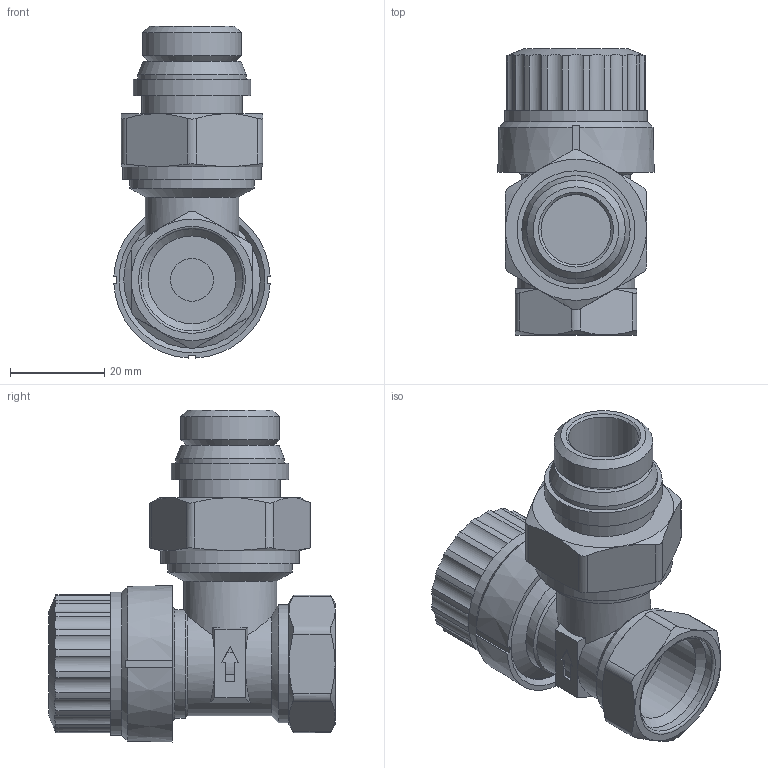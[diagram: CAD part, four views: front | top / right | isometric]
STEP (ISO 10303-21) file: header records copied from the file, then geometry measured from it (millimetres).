
FILE_DESCRIPTION(('STEP AP203'), '1');
FILE_NAME('VT.045.BR.04.1', '2026-02-17T08:51:17', ('VerevichevVA'), ('Vesta'), 'C3D Converter', 'C3D Toolkit', '');
FILE_SCHEMA(('CONFIG_CONTROL_DESIGN'));
Length unit declared in the file: millimetre
Bounding box: 33.19 x 60.77 x 70.5 mm (x, y, z)
Volume: 48413.5 mm3; surface area: 14027.6 mm2
Topology: 1 solids, 3 shells, 275 faces, 713 edges, 465 vertices
Faces by surface type: plane 123, cylinder 79, extrusion 40, cone 32, torus 1
Full cylindrical faces by diameter (mm): 9.1 x1, 14.9 x1, 18.632 x1, 19.8 x1, 20.955 x1, 21.3 x1, 21.7 x1, 21.9 x1, 22.1 x1, 23 x2, 25 x2, 26.441 x1, 29 x1, 29.4 x1, 30.4 x1
Entity records: 12340 total; most frequent: CARTESIAN_POINT 6019, ORIENTED_EDGE 1364, DIRECTION 1118, EDGE_CURVE 682, VERTEX_POINT 465, AXIS2_PLACEMENT_3D 374, VECTOR 370, LINE 330
